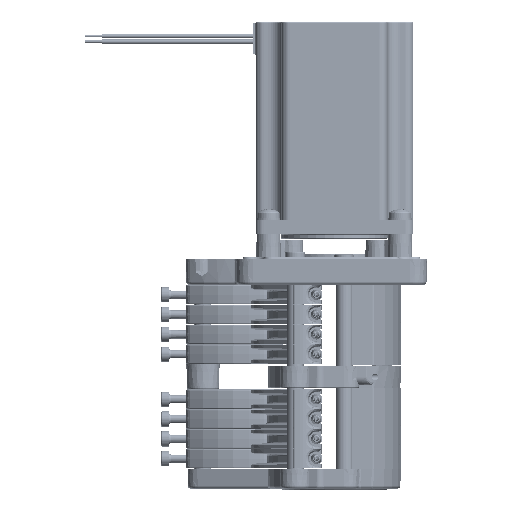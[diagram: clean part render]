
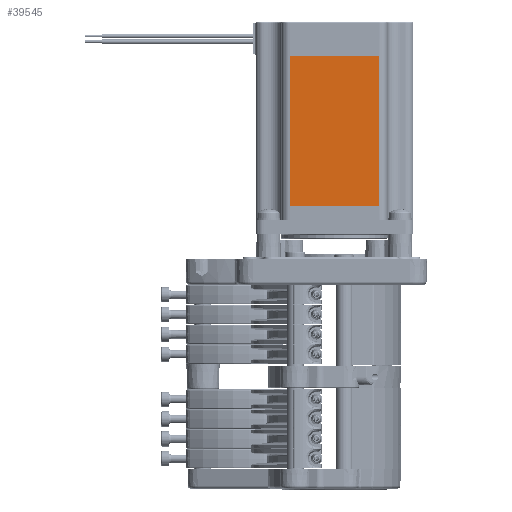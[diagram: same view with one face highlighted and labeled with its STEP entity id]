
A CAD part, left-side view. The second image highlights one B-rep face of the part: STEP entity #39545.
In plain terms, the highlighted planar face has unit normal (-1, 0, 0).
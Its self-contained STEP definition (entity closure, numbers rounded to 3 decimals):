
#300 = CARTESIAN_POINT ( 'NONE',  ( -29.95, 14.924, 28. ) ) ;
#663 = CARTESIAN_POINT ( 'NONE',  ( -29.95, -16.9, 82. ) ) ;
#902 = CARTESIAN_POINT ( 'NONE',  ( -29.95, 14.924, 28. ) ) ;
#1549 = CARTESIAN_POINT ( 'NONE',  ( -29.95, -16.908, 82. ) ) ;
#2033 = CARTESIAN_POINT ( 'NONE',  ( -29.95, -16.9, 82. ) ) ;
#2645 = CARTESIAN_POINT ( 'NONE',  ( -29.95, -16.924, 28. ) ) ;
#10191 = B_SPLINE_CURVE_WITH_KNOTS ( 'NONE', 3,
 ( #62626, #168514, #103741, #78329 ),
 .UNSPECIFIED., .F., .F.,
 ( 4, 4 ),
 ( 0., 1. ),
 .UNSPECIFIED. ) ;
#12160 = CARTESIAN_POINT ( 'NONE',  ( -29.95, -16.916, 28. ) ) ;
#12638 = B_SPLINE_CURVE_WITH_KNOTS ( 'NONE', 3,
 ( #132035, #146887, #12160, #82109 ),
 .UNSPECIFIED., .F., .F.,
 ( 4, 4 ),
 ( 0., 1. ),
 .UNSPECIFIED. ) ;
#15604 = LINE ( 'NONE', #123227, #39239 ) ;
#15924 = ORIENTED_EDGE ( 'NONE', *, *, #31189, .T. ) ;
#16182 = CARTESIAN_POINT ( 'NONE',  ( -29.95, 14.9, 28. ) ) ;
#19161 = DIRECTION ( 'NONE',  ( 0., 0., -1. ) ) ;
#23357 = EDGE_CURVE ( 'NONE', #131173, #31340, #105596, .T. ) ;
#23403 = VERTEX_POINT ( 'NONE', #300 ) ;
#24942 = EDGE_CURVE ( 'NONE', #72739, #79836, #15604, .T. ) ;
#26980 = ORIENTED_EDGE ( 'NONE', *, *, #24942, .T. ) ;
#30824 = CARTESIAN_POINT ( 'NONE',  ( -29.95, 14.9, 82. ) ) ;
#31162 = VERTEX_POINT ( 'NONE', #154305 ) ;
#31189 = EDGE_CURVE ( 'NONE', #89486, #115560, #163925, .T. ) ;
#31340 = VERTEX_POINT ( 'NONE', #156909 ) ;
#34418 = CARTESIAN_POINT ( 'NONE',  ( -29.95, -6.3, 28. ) ) ;
#37237 = ORIENTED_EDGE ( 'NONE', *, *, #23357, .F. ) ;
#39239 = VECTOR ( 'NONE', #110098, 1000. ) ;
#39545 = ADVANCED_FACE ( 'NONE', ( #128243 ), #144004, .F. ) ;
#46977 = B_SPLINE_CURVE_WITH_KNOTS ( 'NONE', 3,
 ( #663, #1549, #67137, #147643 ),
 .UNSPECIFIED., .F., .F.,
 ( 4, 4 ),
 ( 0., 1. ),
 .UNSPECIFIED. ) ;
#47553 = CARTESIAN_POINT ( 'NONE',  ( -29.95, 14.9, 28. ) ) ;
#48396 = EDGE_CURVE ( 'NONE', #31162, #23403, #149641, .T. ) ;
#49288 = CARTESIAN_POINT ( 'NONE',  ( -29.95, 4.3, 28. ) ) ;
#62626 = CARTESIAN_POINT ( 'NONE',  ( -29.95, 14.924, 82. ) ) ;
#63464 = CARTESIAN_POINT ( 'NONE',  ( -29.95, -20.7, 82. ) ) ;
#67137 = CARTESIAN_POINT ( 'NONE',  ( -29.95, -16.916, 82. ) ) ;
#72739 = VERTEX_POINT ( 'NONE', #2645 ) ;
#77329 = ORIENTED_EDGE ( 'NONE', *, *, #48396, .T. ) ;
#78329 = CARTESIAN_POINT ( 'NONE',  ( -29.95, 14.9, 82. ) ) ;
#79836 = VERTEX_POINT ( 'NONE', #165723 ) ;
#80754 = CARTESIAN_POINT ( 'NONE',  ( -29.95, 4.3, 82. ) ) ;
#81465 = CARTESIAN_POINT ( 'NONE',  ( -29.95, -16.9, 28. ) ) ;
#82109 = CARTESIAN_POINT ( 'NONE',  ( -29.95, -16.924, 28. ) ) ;
#84216 = CARTESIAN_POINT ( 'NONE',  ( -29.95, -6.3, 82. ) ) ;
#85696 = CARTESIAN_POINT ( 'NONE',  ( -29.95, 14.908, 28. ) ) ;
#88308 = B_SPLINE_CURVE_WITH_KNOTS ( 'NONE', 3,
 ( #902, #164457, #85696, #113662 ),
 .UNSPECIFIED., .F., .F.,
 ( 4, 4 ),
 ( 0., 1. ),
 .UNSPECIFIED. ) ;
#88422 = EDGE_CURVE ( 'NONE', #31340, #79836, #46977, .T. ) ;
#89486 = VERTEX_POINT ( 'NONE', #16182 ) ;
#90615 = DIRECTION ( 'NONE',  ( 1., 0., 0. ) ) ;
#96889 = VECTOR ( 'NONE', #19161, 1000. ) ;
#102680 = CARTESIAN_POINT ( 'NONE',  ( -29.95, -16.9, 28. ) ) ;
#103741 = CARTESIAN_POINT ( 'NONE',  ( -29.95, 14.908, 82. ) ) ;
#105596 = B_SPLINE_CURVE_WITH_KNOTS ( 'NONE', 3,
 ( #30824, #80754, #84216, #2033 ),
 .UNSPECIFIED., .F., .F.,
 ( 4, 4 ),
 ( 0., 1. ),
 .UNSPECIFIED. ) ;
#108187 = EDGE_CURVE ( 'NONE', #23403, #89486, #88308, .T. ) ;
#110098 = DIRECTION ( 'NONE',  ( 0., 0., 1. ) ) ;
#113662 = CARTESIAN_POINT ( 'NONE',  ( -29.95, 14.9, 28. ) ) ;
#114853 = EDGE_CURVE ( 'NONE', #115560, #72739, #12638, .T. ) ;
#115560 = VERTEX_POINT ( 'NONE', #81465 ) ;
#123227 = CARTESIAN_POINT ( 'NONE',  ( -29.95, -16.924, 5.605 ) ) ;
#124140 = EDGE_CURVE ( 'NONE', #31162, #131173, #10191, .T. ) ;
#124720 = ORIENTED_EDGE ( 'NONE', *, *, #124140, .F. ) ;
#128243 = FACE_OUTER_BOUND ( 'NONE', #159797, .T. ) ;
#129039 = ORIENTED_EDGE ( 'NONE', *, *, #108187, .T. ) ;
#131173 = VERTEX_POINT ( 'NONE', #138462 ) ;
#132035 = CARTESIAN_POINT ( 'NONE',  ( -29.95, -16.9, 28. ) ) ;
#138462 = CARTESIAN_POINT ( 'NONE',  ( -29.95, 14.9, 82. ) ) ;
#139803 = ORIENTED_EDGE ( 'NONE', *, *, #114853, .T. ) ;
#144004 = PLANE ( 'NONE',  #158801 ) ;
#146887 = CARTESIAN_POINT ( 'NONE',  ( -29.95, -16.908, 28. ) ) ;
#147643 = CARTESIAN_POINT ( 'NONE',  ( -29.95, -16.924, 82. ) ) ;
#149641 = LINE ( 'NONE', #152196, #96889 ) ;
#152196 = CARTESIAN_POINT ( 'NONE',  ( -29.95, 14.924, 5.605 ) ) ;
#154305 = CARTESIAN_POINT ( 'NONE',  ( -29.95, 14.924, 82. ) ) ;
#156909 = CARTESIAN_POINT ( 'NONE',  ( -29.95, -16.9, 82. ) ) ;
#158801 = AXIS2_PLACEMENT_3D ( 'NONE', #63464, #90615, #169360 ) ;
#158867 = ORIENTED_EDGE ( 'NONE', *, *, #88422, .F. ) ;
#159797 = EDGE_LOOP ( 'NONE', ( #139803, #26980, #158867, #37237, #124720, #77329, #129039, #15924 ) ) ;
#163925 = B_SPLINE_CURVE_WITH_KNOTS ( 'NONE', 3,
 ( #47553, #49288, #34418, #102680 ),
 .UNSPECIFIED., .F., .F.,
 ( 4, 4 ),
 ( 0., 1. ),
 .UNSPECIFIED. ) ;
#164457 = CARTESIAN_POINT ( 'NONE',  ( -29.95, 14.916, 28. ) ) ;
#165723 = CARTESIAN_POINT ( 'NONE',  ( -29.95, -16.924, 82. ) ) ;
#168514 = CARTESIAN_POINT ( 'NONE',  ( -29.95, 14.916, 82. ) ) ;
#169360 = DIRECTION ( 'NONE',  ( 0., 0., 1. ) ) ;
